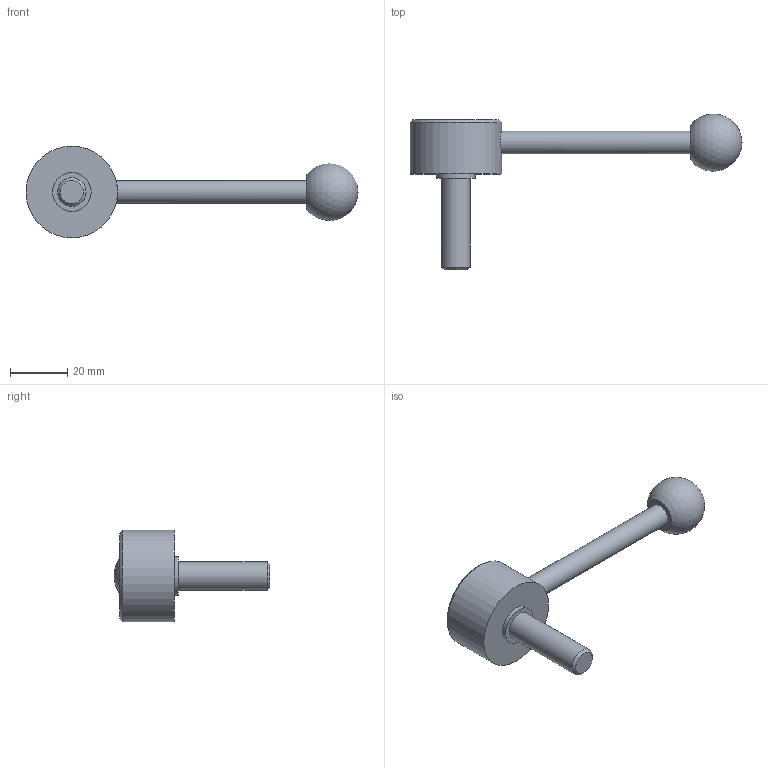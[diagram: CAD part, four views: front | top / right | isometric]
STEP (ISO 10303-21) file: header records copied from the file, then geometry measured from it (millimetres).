
FILE_DESCRIPTION( ( 'STEP AP203' ), '1' );
FILE_NAME( 'C:/Temp/Ganter_Step_05_03_2020/data/2_1/gn_125/gn_125_ms/gn_125_ms_d/Flat Adjustable Lever GN 125-32-M10-32-D.stp', '2020-03-05T11:00:46', ( 'License CC BY-ND 4.0' ), ( 'CADENAS' ), ' ', 'PARTsolutions', ' ' );
FILE_SCHEMA( ( 'CONFIG_CONTROL_DESIGN' ) );
Length unit declared in the file: millimetre
Products named in the file (1): _Flat Adjustable Lever GN 125-32-M10-32-D
Bounding box: 116 x 54.43 x 32 mm (x, y, z)
Volume: 25247.4 mm3; surface area: 7334.8 mm2
Topology: 1 solids, 1 shells, 14 faces, 23 edges, 15 vertices
Faces by surface type: plane 6, cylinder 5, cone 2, sphere 1
Full cylindrical faces by diameter (mm): 8 x1, 10 x1, 13.5 x1, 22 x1, 32 x1
Entity records: 384 total; most frequent: CARTESIAN_POINT 107, DIRECTION 54, AXIS2_PLACEMENT_3D 27, EDGE_LOOP 26, ORIENTED_EDGE 26, FACE_OUTER_BOUND 19, ADVANCED_FACE 14, VERTEX_POINT 14
